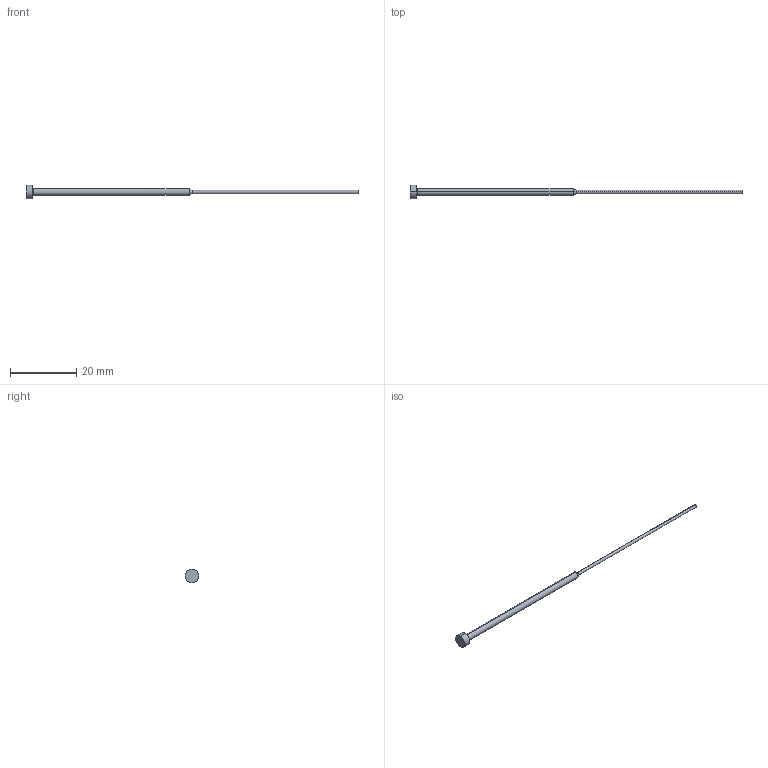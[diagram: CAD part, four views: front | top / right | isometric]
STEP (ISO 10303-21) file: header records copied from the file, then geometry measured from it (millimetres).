
FILE_DESCRIPTION(('CATIA V5 STEP Exchange'),'2;1');
FILE_NAME('C:\Users\Utente\Desktop\IO LAVORO\3D X SITO CF\X SITO\PLASTICA\359\359-1X2X100.stp','2021-05-14T18:23:41+00:00',('none'),('none'),'CATIA Version 5 Release 20 GA (IN-10)','CATIA V5 STEP AP203','none');
FILE_SCHEMA(('CONFIG_CONTROL_DESIGN'));
Length unit declared in the file: millimetre
Products named in the file (1): 359-1X2X100
Bounding box: 100 x 4 x 4 mm (x, y, z)
Volume: 214.1 mm3; surface area: 505.3 mm2
Topology: 1 solids, 1 shells, 13 faces, 38 edges, 28 vertices
Faces by surface type: cylinder 6, plane 3, cone 2, torus 2
Entity records: 530 total; most frequent: CARTESIAN_POINT 144, ORIENTED_EDGE 76, DIRECTION 58, AXIS2_PLACEMENT_3D 38, EDGE_CURVE 38, VERTEX_POINT 28, CIRCLE 24, EDGE_LOOP 14
